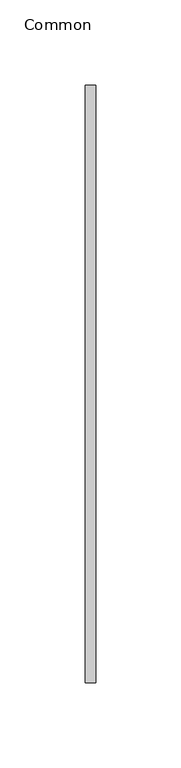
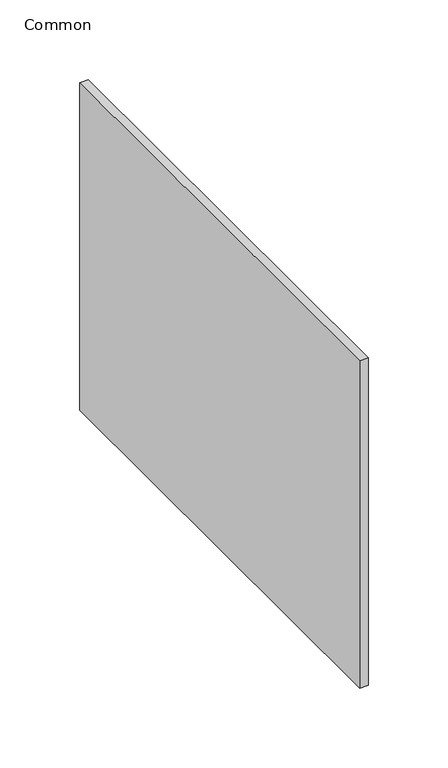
"""IFC4 building model written with IfcOpenShell, lengths in millimetres: duct fitting geometry, 071_角型ユニオン : Common."""

from ifc_helpers import new_model, si_unit, frame, origin, place, context, project, spatial, polyline, outline, extrude, source, transform, mapped, element, save


def common_4fbccdf7(model_context):
    return source(origin(), model_context, "Body", "SweptSolid", [
        extrude(outline(polyline([(3.0, 175.0), (3.0, -175.0), (-3.0, -175.0), (-3.0, 175.0), (3.0, 175.0)])), frame((0.0, 0.0, -125.0), z_axis=(0.0, 0.0, 1.0), x_axis=(1.0, 0.0, 0.0)), (0.0, 0.0, 1.0), 250.0),
    ])


if __name__ == "__main__":
    model = new_model("IFC4")
    model_context = context("Model", 3, world=origin())
    ifc_project = project(units=[si_unit("LENGTHUNIT", "METRE", prefix="MILLI")], contexts=[model_context])
    site = spatial("IfcSite", under=ifc_project)
    building = spatial("IfcBuilding", under=site)
    placement = place(None, origin())
    common_shape = common_4fbccdf7(model_context)
    element("IfcDuctFitting", 1, ObjectType="071_角型ユニオン : Common", at=placement, inside=building, context=model_context, shape_type="MappedRepresentation", body=[
        mapped(common_shape, transform((0.0, 0.0, 0.0), x_axis=(1.0, 0.0, 0.0), y_axis=(0.0, 1.0, 0.0), z_axis=(0.0, 0.0, 1.0))),
    ])
    save(model, "model.ifc")
